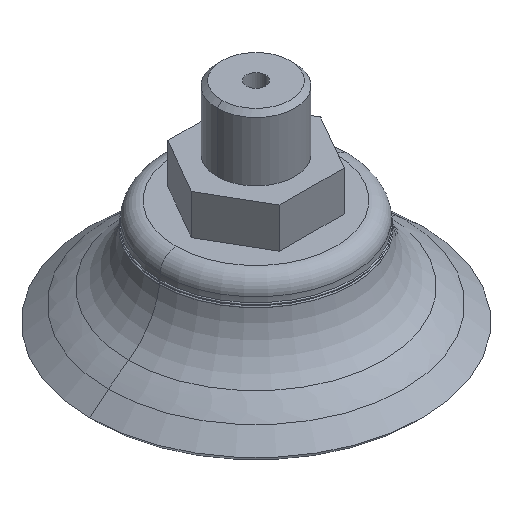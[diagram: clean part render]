
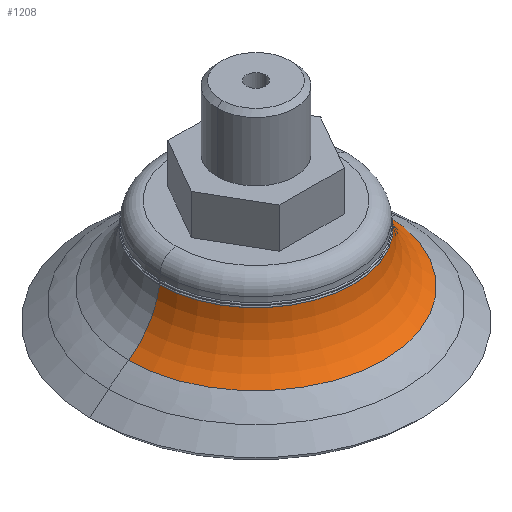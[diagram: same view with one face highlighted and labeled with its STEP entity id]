
A CAD part, isometric view. The second image highlights one B-rep face of the part: STEP entity #1208.
In plain terms, the highlighted toroidal (fillet/blend) face has major radius 21 mm and minor radius 9 mm.
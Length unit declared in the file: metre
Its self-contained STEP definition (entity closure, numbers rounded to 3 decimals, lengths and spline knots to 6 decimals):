
#91 = ORIENTED_EDGE ( 'NONE', *, *, #489, .F. ) ;
#203 = CARTESIAN_POINT ( 'NONE',  ( 0.021, 0., 0.0121 ) ) ;
#219 = CARTESIAN_POINT ( 'NONE',  ( 0.01597, 0., 0.004637 ) ) ;
#244 = ORIENTED_EDGE ( 'NONE', *, *, #1205, .F. ) ;
#291 = VERTEX_POINT ( 'NONE', #337 ) ;
#299 = VERTEX_POINT ( 'NONE', #219 ) ;
#306 = DIRECTION ( 'NONE',  ( -1., 0., 0. ) ) ;
#321 = CIRCLE ( 'NONE', #611, 0.009 ) ;
#337 = CARTESIAN_POINT ( 'NONE',  ( -0.01597, 0., 0.004637 ) ) ;
#398 = VERTEX_POINT ( 'NONE', #770 ) ;
#486 = EDGE_LOOP ( 'NONE', ( #244, #765, #907, #91 ) ) ;
#489 = EDGE_CURVE ( 'NONE', #291, #1241, #321, .T. ) ;
#506 = CIRCLE ( 'NONE', #684, 0.009 ) ;
#591 = AXIS2_PLACEMENT_3D ( 'NONE', #855, #860, #870 ) ;
#611 = AXIS2_PLACEMENT_3D ( 'NONE', #1160, #1188, #1198 ) ;
#684 = AXIS2_PLACEMENT_3D ( 'NONE', #203, #1316, #306 ) ;
#763 = DIRECTION ( 'NONE',  ( 0., 0., -1. ) ) ;
#765 = ORIENTED_EDGE ( 'NONE', *, *, #839, .T. ) ;
#770 = CARTESIAN_POINT ( 'NONE',  ( 0.01208, 0., 0.010901 ) ) ;
#800 = CARTESIAN_POINT ( 'NONE',  ( 0., 0., 0.0121 ) ) ;
#807 = FACE_OUTER_BOUND ( 'NONE', #486, .T. ) ;
#839 = EDGE_CURVE ( 'NONE', #299, #398, #506, .T. ) ;
#855 = CARTESIAN_POINT ( 'NONE',  ( 0., 0., 0.004637 ) ) ;
#860 = DIRECTION ( 'NONE',  ( 0., 0., -1. ) ) ;
#870 = DIRECTION ( 'NONE',  ( 1., 0., 0. ) ) ;
#881 = DIRECTION ( 'NONE',  ( -1., 0., 0. ) ) ;
#892 = CARTESIAN_POINT ( 'NONE',  ( 0., 0., 0.010901 ) ) ;
#907 = ORIENTED_EDGE ( 'NONE', *, *, #1068, .T. ) ;
#963 = AXIS2_PLACEMENT_3D ( 'NONE', #892, #1149, #1236 ) ;
#1035 = TOROIDAL_SURFACE ( 'NONE', #1074, 0.021, 0.009 ) ;
#1068 = EDGE_CURVE ( 'NONE', #398, #1241, #1138, .T. ) ;
#1074 = AXIS2_PLACEMENT_3D ( 'NONE', #800, #763, #881 ) ;
#1138 = CIRCLE ( 'NONE', #963, 0.01208 ) ;
#1149 = DIRECTION ( 'NONE',  ( 0., 0., -1. ) ) ;
#1160 = CARTESIAN_POINT ( 'NONE',  ( -0.021, 0., 0.0121 ) ) ;
#1186 = CARTESIAN_POINT ( 'NONE',  ( -0.01208, 0., 0.010901 ) ) ;
#1188 = DIRECTION ( 'NONE',  ( 0., -1., 0. ) ) ;
#1198 = DIRECTION ( 'NONE',  ( 0., 0., -1. ) ) ;
#1205 = EDGE_CURVE ( 'NONE', #299, #291, #1242, .T. ) ;
#1208 = ADVANCED_FACE ( 'NONE', ( #807 ), #1035, .F. ) ;
#1236 = DIRECTION ( 'NONE',  ( 1., 0., 0. ) ) ;
#1241 = VERTEX_POINT ( 'NONE', #1186 ) ;
#1242 = CIRCLE ( 'NONE', #591, 0.01597 ) ;
#1316 = DIRECTION ( 'NONE',  ( 0., 1., 0. ) ) ;
